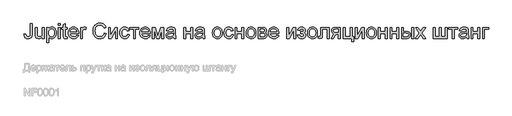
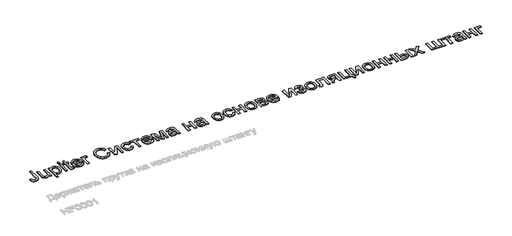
# One storey, part 43 of 124: 1 proxy.
"""IFC4 building model written with IfcOpenShell, lengths in millimetres."""

from ifc_helpers import new_model, si_unit, origin, origin_with_axes, place, context, project, spatial, polyline, outline, extrude, element, save

model = new_model("IFC4")

# Units and contexts
model_context = context("Model", 3, world=origin())
ifc_project = project(units=[si_unit("LENGTHUNIT", "METRE", prefix="MILLI")], contexts=[model_context])

# Site, building, storey
site = spatial("IfcSite", under=ifc_project)
building = spatial("IfcBuilding", under=site)
storey = spatial("IfcBuildingStorey", under=building, Name="Этаж 01", Elevation=0.0)

# Proxy
placement = place(None, origin())
element("IfcBuildingElementProxy", 1, Name="600 мм Arial", ObjectType="600 мм Arial", at=placement, inside=storey, context=model_context, shape_type="SweptSolid", body=[
    extrude(outline(polyline([(25395.1131782, -91079.6474361), (25470.4554108, -91069.9353514), (25473.1133582, -91099.8901429), (25478.2912973, -91124.7129805), (25485.989228, -91144.4038643), (25496.2071504, -91158.9627943), (25508.7887147, -91169.4566282), (25523.5775709, -91176.9522238), (25540.573719, -91181.4495812), (25559.7771592, -91182.9487003), (25587.6074321, -91179.5457919), (25611.3542149, -91169.3370665), (25629.6747383, -91153.2606233), (25641.2262329, -91132.2545614), (25647.3514681, -91101.8491145), (25649.3932132, -91057.5745164), (25649.3932132, -90646.135293), (25724.7354458, -90646.135293), (25724.7354458, -91056.2501412), (25720.1921032, -91123.333423), (25714.5129249, -91150.4601217), (25706.5620753, -91173.3101921), (25696.1418178, -91192.7941422), (25683.0544158, -91209.8224801), (25667.2998693, -91224.3952056), (25648.8781784, -91236.5123188), (25605.9647437, -91252.8462794), (25556.245492, -91258.290933), (25519.1170017, -91255.4812342), (25486.6054304, -91247.052138), (25458.7107781, -91233.0036443), (25435.4330448, -91213.3357532), (25417.1860979, -91188.1220409), (25404.3838044, -91157.436084), (25397.0261645, -91121.2778824), (25395.1131782, -91079.6474361)])), origin_with_axes(), (0.0, 0.0, 1.0), 20.0),
    extrude(outline(polyline([(26129.6999461, -91248.8731539), (26129.6999461, -91172.7951573), (26102.4398903, -91210.1995591), (26070.6916741, -91236.916989), (26034.4552976, -91252.947447), (25993.7307607, -91258.290933), (25957.0345317, -91254.5385366), (25922.8766884, -91243.2813476), (25894.218681, -91226.3587758), (25874.0219595, -91205.6102313), (25860.4287198, -91180.4103146), (25851.5811578, -91150.1336264), (25847.1665738, -91080.0888945), (25847.1665738, -90806.2375373), (25922.5088064, -90806.2375373), (25922.5088064, -91044.6250702), (25923.6492406, -91092.3025767), (25927.0705432, -91121.4388308), (25938.0518207, -91147.0618117), (25956.8689848, -91166.5411634), (25982.2712366, -91178.8468161), (26013.0077773, -91182.9487003), (26045.5101515, -91178.7548456), (26075.9155984, -91166.1732814), (26100.9867564, -91146.3628359), (26117.4862639, -91120.4823376), (26126.6465256, -91085.0369073), (26129.6999461, -91036.5316663), (26129.6999461, -90806.2375373), (26205.0421787, -90806.2375373), (26205.0421787, -91248.8731539), (26129.6999461, -91248.8731539)])), origin_with_axes(), (0.0, 0.0, 1.0), 20.0),
    extrude(outline(polyline([(26308.6377486, -91418.3931773), (26308.6377486, -90806.2375373), (26383.9799812, -90806.2375373), (26383.9799812, -90880.1082419), (26408.5544985, -90843.6695303), (26436.0720717, -90817.6418791), (26468.1513817, -90802.0252884), (26506.4111092, -90796.8197582), (26532.6870807, -90798.6407741), (26557.3627655, -90804.1038217), (26580.4381637, -90813.2089011), (26601.9132751, -90825.9560122), (26621.3190504, -90842.0140613), (26638.1864399, -90861.0519546), (26652.5154436, -90883.069692), (26664.3060615, -90908.0672736), (26680.0881991, -90963.5806666), (26685.3489116, -91024.1708312), (26679.4076174, -91088.6053627), (26671.9809996, -91118.2704471), (26661.5837348, -91146.2340772), (26648.358377, -91171.7650877), (26632.4474807, -91194.132313), (26613.8510459, -91213.3357532), (26592.5690725, -91229.3754081), (26569.6454256, -91242.0259503), (26546.1239706, -91251.0620518), (26522.0047073, -91256.4837127), (26497.2876357, -91258.290933), (26462.6515459, -91253.4532847), (26431.7310642, -91238.94034), (26405.2619546, -91217.0329672), (26383.9799812, -91190.0120347), (26383.9799812, -91418.3931773), (26308.6377486, -91418.3931773)]), holes=[polyline([(26383.9799812, -91031.0870127), (26386.0171277, -91067.3969657), (26392.1285674, -91098.6301471), (26402.3143001, -91124.7865569), (26416.574326, -91145.8661952), (26433.7406196, -91162.0897912), (26452.6451556, -91173.6780741), (26473.287934, -91180.6310438), (26495.6689549, -91182.9487003), (26518.3718726, -91180.5482703), (26539.3917301, -91173.3469803), (26558.7285274, -91161.3448302), (26576.3822647, -91144.5418201), (26591.092946, -91122.6988266), (26601.6005754, -91095.5767265), (26607.9051531, -91063.1755198), (26610.006679, -91025.4952064), (26607.9557369, -90989.4979532), (26601.8029105, -90958.3199541), (26591.5481999, -90931.9612091), (26577.1916051, -90910.4217183), (26559.9839247, -90893.6830875), (26541.1759577, -90881.7269227), (26520.767704, -90874.5532238), (26498.7591637, -90872.1619908), (26476.8196012, -90874.7049751), (26456.1768227, -90882.333928), (26436.8308283, -90895.0488494), (26418.7816179, -90912.8497395), (26403.5559019, -90935.4974748), (26392.6803904, -90962.7529321), (26386.1550835, -90994.6161114), (26383.9799812, -91031.0870127)])]), origin_with_axes(), (0.0, 0.0, 1.0), 20.0),
    extrude(outline(polyline([(26770.1089233, -90721.4775256), (26770.1089233, -90646.135293), (26845.4511559, -90646.135293), (26845.4511559, -90721.4775256), (26770.1089233, -90721.4775256)])), origin_with_axes(), (0.0, 0.0, 1.0), 20.0),
    extrude(outline(polyline([(26770.1089233, -91248.8731539), (26770.1089233, -90806.2375373), (26845.4511559, -90806.2375373), (26845.4511559, -91248.8731539), (26770.1089233, -91248.8731539)])), origin_with_axes(), (0.0, 0.0, 1.0), 20.0),
    extrude(outline(polyline([(27118.5667492, -91186.0389091), (27127.9845282, -91251.0804459), (27071.6250066, -91258.290933), (27035.4622064, -91255.163936), (27008.4964562, -91245.7829451), (26989.4401689, -91231.3251827), (26977.0057574, -91212.9678712), (26970.1631523, -91181.4403842), (26967.8822839, -91127.4720955), (26967.8822839, -90881.5797699), (26911.3756095, -90881.5797699), (26911.3756095, -90806.2375373), (26967.8822839, -90806.2375373), (26967.8822839, -90698.6688419), (27043.2245165, -90654.3758497), (27043.2245165, -90806.2375373), (27118.5667492, -90806.2375373), (27118.5667492, -90881.5797699), (27043.2245165, -90881.5797699), (27043.2245165, -91125.2648035), (27047.1976421, -91164.1131422), (27060.0735119, -91177.8719288), (27070.9444249, -91181.6795075), (27085.7516752, -91182.9487003), (27118.5667492, -91186.0389091)])), origin_with_axes(), (0.0, 0.0, 1.0), 20.0),
    extrude(outline(polyline([(27503.8127745, -91117.0242468), (27577.6834791, -91126.4420259), (27566.3573122, -91156.0289354), (27551.0672168, -91182.1025718), (27531.8131929, -91204.6629351), (27508.5952404, -91223.7100254), (27481.6524828, -91238.8391725), (27451.2240433, -91249.6457061), (27417.3099219, -91256.1296262), (27379.9101185, -91258.290933), (27333.161514, -91254.5615292), (27291.5080751, -91243.3733181), (27254.9498018, -91224.7262994), (27223.4866942, -91198.6204733), (27198.18561, -91165.7824067), (27180.113407, -91126.9386666), (27169.2700851, -91082.0892528), (27165.6556445, -91031.2341655), (27169.3068733, -90978.6546314), (27180.2605598, -90932.310697), (27198.5167038, -90892.2023625), (27224.0753054, -90858.3296278), (27255.4556396, -90831.4190599), (27291.1769813, -90812.1972256), (27331.2393306, -90800.6641251), (27375.6426874, -90796.8197582), (27418.615903, -90800.654928), (27457.4780372, -90812.1604374), (27492.2290902, -90831.3362864), (27522.8690619, -90858.182475), (27547.880439, -90891.9816333), (27565.7457084, -90932.0163914), (27576.46487, -90978.2867494), (27580.0379239, -91030.7927071), (27579.5964655, -91051.0997933), (27240.9978772, -91051.0997933), (27245.3618773, -91081.1649493), (27254.0392939, -91107.4961031), (27267.0301268, -91130.0932547), (27284.3343762, -91148.956404), (27304.9955487, -91163.8280337), (27328.0571513, -91174.4506263), (27353.5191839, -91180.8241818), (27381.3816465, -91182.9487003), (27421.480784, -91179.012363), (27455.2523511, -91167.203351), (27482.696348, -91146.7859002), (27503.8127745, -91117.0242468)]), holes=[polyline([(27240.9978772, -90975.7575607), (27504.6956913, -90975.7575607), (27494.50536, -90935.9527288), (27485.7405715, -90920.2993499), (27474.5293677, -90907.4786624), (27453.9831583, -90892.0276186), (27430.6042575, -90880.9911587), (27404.3926653, -90874.3692828), (27375.3483818, -90872.1619908), (27348.8562796, -90873.9232259), (27324.5622724, -90879.206931), (27302.46636, -90888.0131063), (27282.5685426, -90900.3417517), (27265.8712986, -90915.62265), (27253.3771063, -90933.2855843), (27245.0859658, -90953.3305545), (27240.9978772, -90975.7575607)])]), origin_with_axes(), (0.0, 0.0, 1.0), 20.0),
    extrude(outline(polyline([(27655.3801565, -91248.8731539), (27655.3801565, -90806.2375373), (27721.3046101, -90806.2375373), (27721.3046101, -90871.7205324), (27745.6583981, -90833.7551105), (27768.0991998, -90811.3878852), (27790.6135779, -90800.46179), (27815.1880952, -90796.8197582), (27852.7120587, -90802.6322937), (27890.8246334, -90820.0699003), (27865.661505, -90887.6130346), (27839.1740013, -90876.0247518), (27812.6864977, -90872.1619908), (27790.1905137, -90875.877599), (27770.0857626, -90887.0244234), (27753.8437725, -90904.7563356), (27742.9360714, -90928.2272069), (27733.7758097, -90970.3129071), (27730.7223891, -91016.2245801), (27730.7223891, -91248.8731539), (27655.3801565, -91248.8731539)])), origin_with_axes(), (0.0, 0.0, 1.0), 20.0),
    extrude(outline(polyline([(28606.5758433, -91034.6186799), (28681.9180759, -91054.0428492), (28667.009658, -91100.8972199), (28647.1532273, -91141.8378874), (28622.3487838, -91176.8648519), (28592.5963274, -91205.9781132), (28558.5672429, -91228.8649719), (28520.9329148, -91245.212728), (28479.6933431, -91255.0213817), (28434.8485279, -91258.290933), (28388.9046652, -91255.8169265), (28347.4581599, -91248.3949073), (28310.5090121, -91236.0248752), (28278.0572216, -91218.7068303), (28249.6567315, -91196.6982899), (28224.8614851, -91170.2567715), (28203.6714821, -91139.3822751), (28186.0867228, -91104.0748006), (28172.2773524, -91065.8610583), (28162.4135164, -91026.2677586), (28156.4952148, -90985.2949014), (28154.5224476, -90942.9424867), (28156.7527322, -90897.4998632), (28163.443586, -90855.055478), (28174.5950089, -90815.6093311), (28190.2070011, -90779.1614224), (28209.9300746, -90746.3141588), (28233.4147414, -90717.669947), (28260.6610017, -90693.2287869), (28291.6688554, -90672.9906786), (28325.3852402, -90657.1211691), (28360.7570941, -90645.7858051), (28397.7844169, -90638.9845867), (28436.4672087, -90636.7175139), (28479.5599859, -90639.6513728), (28519.0751107, -90648.4529496), (28555.0125831, -90663.1222441), (28587.3724031, -90683.6592565), (28615.6211418, -90709.5213608), (28639.2253703, -90740.165931), (28658.1850886, -90775.5929671), (28672.5002968, -90815.8024692), (28597.1580642, -90833.7551105), (28585.2938698, -90804.1268143), (28571.0384425, -90778.8119345), (28554.3917822, -90757.8104711), (28535.353889, -90741.1224241), (28513.8143982, -90728.4075027), (28489.6629452, -90719.3254159), (28462.89953, -90713.8761639), (28433.5241527, -90712.0597465), (28399.7249944, -90714.0739004), (28368.8137098, -90720.1163622), (28340.7902988, -90730.1871318), (28315.6547615, -90744.2862093), (28293.724396, -90761.7789982), (28275.3165007, -90782.030902), (28260.4310755, -90805.0419208), (28249.0681203, -90830.8120546), (28234.6655402, -90885.9575656), (28229.8646802, -90942.7953339), (28235.548457, -91012.3986074), (28242.653178, -91043.668577), (28252.5997875, -91072.5841018), (28265.5492337, -91098.5703662), (28281.6624651, -91121.0525547), (28300.9394817, -91140.0306671), (28323.3802834, -91155.5047035), (28347.8950198, -91167.5114521), (28373.3938406, -91176.0877011), (28399.8767457, -91181.2334505), (28427.3437352, -91182.9487003), (28460.0990283, -91180.6126497), (28490.2331623, -91173.6044977), (28517.746137, -91161.9242443), (28542.6379525, -91145.5718896), (28564.3199976, -91124.62101), (28582.2036611, -91099.1451818), (28596.288943, -91069.1444051), (28606.5758433, -91034.6186799)])), origin_with_axes(), (0.0, 0.0, 1.0), 20.0),
    extrude(outline(polyline([(28776.0958666, -90806.2375373), (28851.4380992, -90806.2375373), (28851.4380992, -91143.8060561), (29036.5563192, -90806.2375373), (29133.9714715, -90806.2375373), (29133.9714715, -91248.8731539), (29058.6292389, -91248.8731539), (29058.6292389, -90913.3647743), (28874.6882413, -91248.8731539), (28776.0958666, -91248.8731539), (28776.0958666, -90806.2375373)])), origin_with_axes(), (0.0, 0.0, 1.0), 20.0),
    extrude(outline(polyline([(29529.5181928, -91088.7709096), (29604.8604254, -91098.1886887), (29596.6658539, -91133.739885), (29583.8543634, -91165.1983941), (29566.4259539, -91192.564216), (29544.3806254, -91215.8373507), (29518.6472798, -91234.410793), (29490.1548193, -91247.6775374), (29458.9032438, -91255.6375841), (29424.8925533, -91258.290933), (29382.6367077, -91254.5891204), (29344.7494607, -91243.4836827), (29311.2308124, -91224.9746198), (29282.0807628, -91199.0619317), (29258.4857313, -91166.2330622), (29241.6321374, -91126.9754548), (29231.5199811, -91081.2891095), (29228.1492623, -91029.1740264), (29233.9066155, -90962.1275327), (29241.1033071, -90931.9566106), (29251.1786752, -90904.0205716), (29264.2016978, -90878.8804358), (29280.2413528, -90857.0972231), (29299.2976402, -90838.6709337), (29321.3705599, -90823.6015675), (29345.462232, -90811.8845259), (29370.5747767, -90803.5152105), (29396.708194, -90798.4936213), (29423.8624837, -90796.8197582), (29457.2891615, -90799.1190207), (29487.524463, -90806.0168081), (29514.5683882, -90817.5131204), (29538.420937, -90833.6079577), (29558.6774394, -90853.933438), (29574.9332251, -90878.1216791), (29587.188294, -90906.1726813), (29595.4426463, -90938.0864444), (29520.1004137, -90947.5042234), (29506.4335976, -90914.6339672), (29485.1516241, -90891.0711254), (29457.4317158, -90876.8892745), (29424.4510949, -90872.1619908), (29398.8511066, -90874.4888444), (29375.7619129, -90881.4694053), (29355.1835138, -90893.1036734), (29337.1159093, -90909.3916487), (29322.405228, -90930.7104104), (29311.8975985, -90957.4370373), (29305.5930208, -90989.5715296), (29303.4914949, -91027.1138872), (29305.5470356, -91065.2218634), (29311.7136575, -91097.7288362), (29321.9913607, -91124.6348056), (29336.3801453, -91145.9397716), (29354.0890648, -91162.1311779), (29374.3271731, -91173.6964682), (29397.0944701, -91180.6356423), (29422.3909558, -91182.9487003), (29461.4048413, -91177.172953), (29478.2768293, -91169.9532689), (29493.3921808, -91159.8457111), (29506.3278315, -91146.739915), (29516.660717, -91130.525516), (29524.3908374, -91111.2025142), (29529.5181928, -91088.7709096)])), origin_with_axes(), (0.0, 0.0, 1.0), 20.0),
    extrude(outline(polyline([(29633.1137626, -90806.2375373), (29990.9893675, -90806.2375373), (29990.9893675, -90881.5797699), (29849.7226814, -90881.5797699), (29849.7226814, -91248.8731539), (29774.3804487, -91248.8731539), (29774.3804487, -90881.5797699), (29633.1137626, -90881.5797699), (29633.1137626, -90806.2375373)])), origin_with_axes(), (0.0, 0.0, 1.0), 20.0),
    extrude(outline(polyline([(30366.8176138, -91117.0242468), (30440.6883184, -91126.4420259), (30429.3621515, -91156.0289354), (30414.0720561, -91182.1025718), (30394.8180321, -91204.6629351), (30371.6000797, -91223.7100254), (30344.6573221, -91238.8391725), (30314.2288826, -91249.6457061), (30280.3147611, -91256.1296262), (30242.9149578, -91258.290933), (30196.1663533, -91254.5615292), (30154.5129144, -91243.3733181), (30117.9546411, -91224.7262994), (30086.4915334, -91198.6204733), (30061.1904492, -91165.7824067), (30043.1182462, -91126.9386666), (30032.2749244, -91082.0892528), (30028.6604838, -91031.2341655), (30032.3117126, -90978.6546314), (30043.265399, -90932.310697), (30061.521543, -90892.2023625), (30087.0801446, -90858.3296278), (30118.4604788, -90831.4190599), (30154.1818206, -90812.1972256), (30194.2441698, -90800.6641251), (30238.6475267, -90796.8197582), (30281.6207422, -90800.654928), (30320.4828765, -90812.1604374), (30355.2339294, -90831.3362864), (30385.8739011, -90858.182475), (30410.8852783, -90891.9816333), (30428.7505477, -90932.0163914), (30439.4697093, -90978.2867494), (30443.0427632, -91030.7927071), (30442.6013048, -91051.0997933), (30104.0027164, -91051.0997933), (30108.3667166, -91081.1649493), (30117.0441331, -91107.4961031), (30130.0349661, -91130.0932547), (30147.3392155, -91148.956404), (30168.000388, -91163.8280337), (30191.0619906, -91174.4506263), (30216.5240232, -91180.8241818), (30244.3864858, -91182.9487003), (30284.4856233, -91179.012363), (30318.2571904, -91167.203351), (30345.7011872, -91146.7859002), (30366.8176138, -91117.0242468)]), holes=[polyline([(30104.0027164, -90975.7575607), (30367.7005306, -90975.7575607), (30357.5101993, -90935.9527288), (30348.7454108, -90920.2993499), (30337.534207, -90907.4786624), (30316.9879975, -90892.0276186), (30293.6090967, -90880.9911587), (30267.3975046, -90874.3692828), (30238.3532211, -90872.1619908), (30211.8611189, -90873.9232259), (30187.5671116, -90879.206931), (30165.4711993, -90888.0131063), (30145.5733819, -90900.3417517), (30128.8761378, -90915.62265), (30116.3819456, -90933.2855843), (30108.0908051, -90953.3305545), (30104.0027164, -90975.7575607)])]), origin_with_axes(), (0.0, 0.0, 1.0), 20.0),
    extrude(outline(polyline([(30518.3849958, -90806.2375373), (30648.0266109, -90806.2375373), (30747.9433608, -91160.581475), (30855.659209, -90806.2375373), (30979.8561705, -90806.2375373), (30979.8561705, -91248.8731539), (30904.5139379, -91248.8731539), (30904.5139379, -90892.469077), (30796.2094785, -91248.8731539), (30697.3227982, -91248.8731539), (30593.7272284, -90875.3993524), (30593.7272284, -91248.8731539), (30518.3849958, -91248.8731539), (30518.3849958, -90806.2375373)])), origin_with_axes(), (0.0, 0.0, 1.0), 20.0),
    extrude(outline(polyline([(31375.4028917, -91192.3664794), (31339.4056385, -91223.2317788), (31302.3415275, -91243.4285004), (31263.3644301, -91254.5753248), (31221.6282178, -91258.290933), (31188.0819783, -91256.0560498), (31158.6652143, -91249.3514005), (31133.3779256, -91238.1769849), (31112.2201124, -91222.532803), (31095.5136713, -91203.4121363), (31083.5804991, -91181.8082662), (31076.4205957, -91157.7211925), (31074.0339613, -91131.1509154), (31077.6392049, -91099.917734), (31088.4549355, -91071.5540322), (31105.138384, -91047.2738205), (31126.346781, -91028.2911096), (31151.2707862, -91013.9437118), (31179.1010591, -91003.5694395), (31244.2897487, -90992.2386741), (31321.3242385, -90980.3192974), (31374.9614334, -90966.3397816), (31375.4028917, -90949.5643626), (31370.2157556, -90915.9399483), (31363.7318355, -90903.4871427), (31354.6543472, -90893.9406049), (31338.9641801, -90884.4124613), (31319.8527105, -90877.6066444), (31271.3658635, -90872.1619908), (31226.4842601, -90875.7856285), (31195.1407141, -90886.6565414), (31173.7667702, -90906.7612925), (31158.793973, -90938.0864444), (31083.4517404, -90928.6686653), (31096.5299453, -90887.4658818), (31116.0460851, -90855.0922662), (31143.8211758, -90830.333808), (31181.6762331, -90811.9764964), (31227.9741822, -90800.6089428), (31281.0779482, -90796.8197582), (31332.0112104, -90800.1674844), (31372.3862594, -90810.2106628), (31402.8284945, -90825.3122187), (31423.9633151, -90843.8350772), (31437.9796191, -90866.7357314), (31447.0663044, -90894.9706745), (31450.7451244, -90960.8951281), (31450.7451244, -91054.6314604), (31454.5710971, -91185.5238743), (31460.2364798, -91217.8790958), (31469.5806825, -91248.8731539), (31394.2384499, -91248.8731539), (31382.1719205, -91222.6799558), (31375.4028917, -91192.3664794)]), holes=[polyline([(31375.4028917, -91041.6820142), (31324.7823292, -91054.2267902), (31253.8546805, -91064.7850035), (31189.033873, -91076.9986857), (31172.1664835, -91085.349607), (31159.6768898, -91096.8643135), (31151.9513679, -91110.6598883), (31149.3761939, -91125.8534147), (31154.9863943, -91148.2574282), (31171.8169956, -91166.6147398), (31199.5001158, -91178.8652102), (31237.6678728, -91182.9487003), (31278.1348922, -91178.4421459), (31313.8930222, -91164.9224826), (31342.8821234, -91145.0016725), (31363.0420567, -91121.291678), (31371.9815892, -91096.8643135), (31374.9614334, -91063.0191699), (31375.4028917, -91041.6820142)])]), origin_with_axes(), (0.0, 0.0, 1.0), 20.0),
    extrude(outline(polyline([(31789.7851711, -90806.2375373), (31865.1274037, -90806.2375373), (31865.1274037, -90975.7575607), (32062.9007643, -90975.7575607), (32062.9007643, -90806.2375373), (32138.2429969, -90806.2375373), (32138.2429969, -91248.8731539), (32062.9007643, -91248.8731539), (32062.9007643, -91051.0997933), (31865.1274037, -91051.0997933), (31865.1274037, -91248.8731539), (31789.7851711, -91248.8731539), (31789.7851711, -90806.2375373)])), origin_with_axes(), (0.0, 0.0, 1.0), 20.0),
    extrude(outline(polyline([(32533.7897182, -91192.3664794), (32497.7924649, -91223.2317788), (32460.7283539, -91243.4285004), (32421.7512565, -91254.5753248), (32380.0150442, -91258.290933), (32346.4688047, -91256.0560498), (32317.0520407, -91249.3514005), (32291.7647521, -91238.1769849), (32270.6069388, -91222.532803), (32253.9004977, -91203.4121363), (32241.9673255, -91181.8082662), (32234.8074222, -91157.7211925), (32232.4207877, -91131.1509154), (32236.0260313, -91099.917734), (32246.8417619, -91071.5540322), (32263.5252104, -91047.2738205), (32284.7336074, -91028.2911096), (32309.6576126, -91013.9437118), (32337.4878855, -91003.5694395), (32402.6765751, -90992.2386741), (32479.7110649, -90980.3192974), (32533.3482598, -90966.3397816), (32533.7897182, -90949.5643626), (32528.602582, -90915.9399483), (32522.1186619, -90903.4871427), (32513.0411736, -90893.9406049), (32497.3510065, -90884.4124613), (32478.2395369, -90877.6066444), (32429.7526899, -90872.1619908), (32384.8710865, -90875.7856285), (32353.5275405, -90886.6565414), (32332.1535966, -90906.7612925), (32317.1807994, -90938.0864444), (32241.8385668, -90928.6686653), (32254.9167717, -90887.4658818), (32274.4329116, -90855.0922662), (32302.2080022, -90830.333808), (32340.0630595, -90811.9764964), (32386.3610086, -90800.6089428), (32439.4647746, -90796.8197582), (32490.3980368, -90800.1674844), (32530.7730858, -90810.2106628), (32561.2153209, -90825.3122187), (32582.3501415, -90843.8350772), (32596.3664455, -90866.7357314), (32605.4531308, -90894.9706745), (32609.1319508, -90960.8951281), (32609.1319508, -91054.6314604), (32612.9579235, -91185.5238743), (32618.6233062, -91217.8790958), (32627.9675089, -91248.8731539), (32552.6252763, -91248.8731539), (32540.5587469, -91222.6799558), (32533.7897182, -91192.3664794)]), holes=[polyline([(32533.7897182, -91041.6820142), (32483.1691556, -91054.2267902), (32412.241507, -91064.7850035), (32347.4206994, -91076.9986857), (32330.5533099, -91085.349607), (32318.0637162, -91096.8643135), (32310.3381943, -91110.6598883), (32307.7630203, -91125.8534147), (32313.3732208, -91148.2574282), (32330.203822, -91166.6147398), (32357.8869422, -91178.8652102), (32396.0546992, -91182.9487003), (32436.5217186, -91178.4421459), (32472.2798486, -91164.9224826), (32501.2689498, -91145.0016725), (32521.4288831, -91121.291678), (32530.3684156, -91096.8643135), (32533.3482598, -91063.0191699), (32533.7897182, -91041.6820142)])]), origin_with_axes(), (0.0, 0.0, 1.0), 20.0),
    extrude(outline(polyline([(32929.3364394, -91027.5553456), (32933.4107325, -90970.2301337), (32945.6336118, -90920.8327788), (32966.0050772, -90879.3632809), (32994.5251289, -90845.82164), (33023.2383186, -90824.3833167), (33054.9313525, -90809.0702287), (33089.6042306, -90799.8823758), (33127.2569528, -90796.8197582), (33168.8230197, -90800.5491619), (33206.406764, -90811.7373731), (33240.0081858, -90830.3843917), (33269.6272849, -90856.4902178), (33293.8017305, -90889.1719346), (33311.0691917, -90927.5466252), (33321.4296684, -90971.6142897), (33324.8831606, -91021.3749281), (33323.3564503, -91061.7039918), (33318.7763195, -91097.4897129), (33311.1427681, -91128.7320913), (33300.4557961, -91155.4311271), (33286.8487608, -91178.4927297), (33270.4550194, -91198.8228084), (33251.2745719, -91216.4213634), (33229.3074182, -91231.2883945), (33205.4088841, -91243.1020051), (33180.4342952, -91251.5402984), (33154.3836514, -91256.6032743), (33127.2569528, -91258.290933), (33085.0838806, -91254.5753248), (33047.1506483, -91243.4285004), (33013.4572561, -91224.8504596), (32984.0037039, -91198.8412025), (32960.0867756, -91165.8421876), (32943.0032555, -91126.2948731), (32932.7531434, -91080.1992591), (32929.3364394, -91027.5553456)]), holes=[polyline([(33004.678672, -91027.4081928), (33006.8583728, -91063.9526705), (33013.3974753, -91095.5951206), (33024.2959794, -91122.3355431), (33039.5538851, -91144.1739381), (33058.1135318, -91161.1378966), (33078.9172586, -91173.2550098), (33101.9650656, -91180.5252777), (33127.2569528, -91182.9487003), (33152.4200813, -91180.5114821), (33175.3759178, -91173.1998275), (33196.1244623, -91161.0137364), (33214.6657148, -91143.9532089), (33229.9236206, -91121.8986833), (33240.8221247, -91094.7305979), (33247.3612272, -91062.4489528), (33249.540928, -91025.053748), (33247.3474316, -90989.6680986), (33240.7669424, -90958.853383), (33229.7994604, -90932.6096012), (33214.4449856, -90910.9367531), (33195.8347552, -90893.9727946), (33175.1000063, -90881.8556814), (33152.2407388, -90874.5854135), (33127.2569528, -90872.1619908), (33101.9650656, -90874.5762164), (33078.9172586, -90881.8188932), (33058.1135318, -90893.8900212), (33039.5538851, -90910.7896003), (33024.2959794, -90932.5636159), (33013.3974753, -90959.2580532), (33006.8583728, -90990.8729121), (33004.678672, -91027.4081928)])]), origin_with_axes(), (0.0, 0.0, 1.0), 20.0),
    extrude(outline(polyline([(33692.1765446, -91088.7709096), (33767.5187772, -91098.1886887), (33759.3242057, -91133.739885), (33746.5127153, -91165.1983941), (33729.0843057, -91192.564216), (33707.0389772, -91215.8373507), (33681.3056316, -91234.410793), (33652.8131711, -91247.6775374), (33621.5615956, -91255.6375841), (33587.5509051, -91258.290933), (33545.2950595, -91254.5891204), (33507.4078125, -91243.4836827), (33473.8891642, -91224.9746198), (33444.7391146, -91199.0619317), (33421.1440832, -91166.2330622), (33404.2904892, -91126.9754548), (33394.1783329, -91081.2891095), (33390.8076141, -91029.1740264), (33396.5649674, -90962.1275327), (33403.7616589, -90931.9566106), (33413.837027, -90904.0205716), (33426.8600497, -90878.8804358), (33442.8997046, -90857.0972231), (33461.955992, -90838.6709337), (33484.0289117, -90823.6015675), (33508.1205839, -90811.8845259), (33533.2331286, -90803.5152105), (33559.3665458, -90798.4936213), (33586.5208356, -90796.8197582), (33619.9475133, -90799.1190207), (33650.1828148, -90806.0168081), (33677.22674, -90817.5131204), (33701.0792889, -90833.6079577), (33721.3357912, -90853.933438), (33737.5915769, -90878.1216791), (33749.8466458, -90906.1726813), (33758.1009981, -90938.0864444), (33682.7587655, -90947.5042234), (33669.0919494, -90914.6339672), (33647.809976, -90891.0711254), (33620.0900676, -90876.8892745), (33587.1094468, -90872.1619908), (33561.5094584, -90874.4888444), (33538.4202647, -90881.4694053), (33517.8418656, -90893.1036734), (33499.7742611, -90909.3916487), (33485.0635798, -90930.7104104), (33474.5559503, -90957.4370373), (33468.2513726, -90989.5715296), (33466.1498467, -91027.1138872), (33468.2053874, -91065.2218634), (33474.3720093, -91097.7288362), (33484.6497126, -91124.6348056), (33499.0384971, -91145.9397716), (33516.7474166, -91162.1311779), (33536.9855249, -91173.6964682), (33559.7528219, -91180.6356423), (33585.0493076, -91182.9487003), (33624.0631932, -91177.172953), (33640.9351812, -91169.9532689), (33656.0505326, -91159.8457111), (33668.9861833, -91146.739915), (33679.3190688, -91130.525516), (33687.0491893, -91111.2025142), (33692.1765446, -91088.7709096)])), origin_with_axes(), (0.0, 0.0, 1.0), 20.0),
    extrude(outline(polyline([(33833.4432307, -90806.2375373), (33908.7854633, -90806.2375373), (33908.7854633, -90975.7575607), (34106.5588239, -90975.7575607), (34106.5588239, -90806.2375373), (34181.9010566, -90806.2375373), (34181.9010566, -91248.8731539), (34106.5588239, -91248.8731539), (34106.5588239, -91051.0997933), (33908.7854633, -91051.0997933), (33908.7854633, -91248.8731539), (33833.4432307, -91248.8731539), (33833.4432307, -90806.2375373)])), origin_with_axes(), (0.0, 0.0, 1.0), 20.0),
    extrude(outline(polyline([(34276.0788473, -91027.5553456), (34280.1531404, -90970.2301337), (34292.3760197, -90920.8327788), (34312.7474852, -90879.3632809), (34341.2675369, -90845.82164), (34369.9807266, -90824.3833167), (34401.6737605, -90809.0702287), (34436.3466385, -90799.8823758), (34473.9993607, -90796.8197582), (34515.5654277, -90800.5491619), (34553.149172, -90811.7373731), (34586.7505937, -90830.3843917), (34616.3696929, -90856.4902178), (34640.5441385, -90889.1719346), (34657.8115996, -90927.5466252), (34668.1720763, -90971.6142897), (34671.6255685, -91021.3749281), (34670.0988583, -91061.7039918), (34665.5187274, -91097.4897129), (34657.885176, -91128.7320913), (34647.1982041, -91155.4311271), (34633.5911688, -91178.4927297), (34617.1974273, -91198.8228084), (34598.0169798, -91216.4213634), (34576.0498262, -91231.2883945), (34552.1512921, -91243.1020051), (34527.1767031, -91251.5402984), (34501.1260593, -91256.6032743), (34473.9993607, -91258.290933), (34431.8262885, -91254.5753248), (34393.8930563, -91243.4285004), (34360.199664, -91224.8504596), (34330.7461118, -91198.8412025), (34306.8291836, -91165.8421876), (34289.7456634, -91126.2948731), (34279.4955513, -91080.1992591), (34276.0788473, -91027.5553456)]), holes=[polyline([(34351.4210799, -91027.4081928), (34353.6007808, -91063.9526705), (34360.1398832, -91095.5951206), (34371.0383873, -91122.3355431), (34386.2962931, -91144.1739381), (34404.8559397, -91161.1378966), (34425.6596666, -91173.2550098), (34448.7074736, -91180.5252777), (34473.9993607, -91182.9487003), (34499.1624892, -91180.5114821), (34522.1183257, -91173.1998275), (34542.8668702, -91161.0137364), (34561.4081228, -91143.9532089), (34576.6660285, -91121.8986833), (34587.5645326, -91094.7305979), (34594.1036351, -91062.4489528), (34596.2833359, -91025.053748), (34594.0898395, -90989.6680986), (34587.5093503, -90958.853383), (34576.5418684, -90932.6096012), (34561.1873936, -90910.9367531), (34542.5771632, -90893.9727946), (34521.8424142, -90881.8556814), (34498.9831467, -90874.5854135), (34473.9993607, -90872.1619908), (34448.7074736, -90874.5762164), (34425.6596666, -90881.8188932), (34404.8559397, -90893.8900212), (34386.2962931, -90910.7896003), (34371.0383873, -90932.5636159), (34360.1398832, -90959.2580532), (34353.6007808, -90990.8729121), (34351.4210799, -91027.4081928)])]), origin_with_axes(), (0.0, 0.0, 1.0), 20.0),
    extrude(outline(polyline([(34756.3855802, -90806.2375373), (34922.3739364, -90806.2375373), (34975.7352198, -90808.757529), (35013.3879421, -90816.317504), (35041.0894563, -90830.5913254), (35064.5971158, -90853.2528563), (35080.6551649, -90882.7753864), (35086.0078479, -90917.6322054), (35082.7704863, -90945.7199958), (35073.0584017, -90969.9450251), (35056.8348057, -90990.4176582), (35034.0629102, -91007.2482595), (35061.9483654, -91022.9016383), (35084.6834727, -91048.0831609), (35099.8034227, -91080.8062644), (35104.8434061, -91119.084386), (35100.6587484, -91149.9220942), (35092.0779008, -91176.5107654), (35079.1008634, -91198.8503996), (35061.7276362, -91216.9409967), (35039.930628, -91230.9113155), (35013.6822476, -91240.8901146), (34982.9824952, -91246.8773941), (34947.8313705, -91248.8731539), (34756.3855802, -91248.8731539), (34756.3855802, -90806.2375373)]), holes=[polyline([(34831.7278128, -90975.7575607), (34906.1871287, -90975.7575607), (34967.6234219, -90971.9315879), (34983.4423476, -90966.1926288), (34997.4954399, -90956.6276969), (35007.3730714, -90943.9725563), (35010.6656153, -90928.9629709), (35009.2216785, -90916.7216975), (35004.889868, -90906.485381), (34997.6701838, -90898.2540213), (34987.562626, -90892.0276186), (34956.2558682, -90884.1917321), (34908.5415734, -90881.5797699), (34831.7278128, -90881.5797699), (34831.7278128, -90975.7575607)]), polyline([(34831.7278128, -91173.5309213), (34924.13977, -91173.5309213), (34974.5028152, -91170.1280128), (35006.1038785, -91159.9192875), (35015.8987367, -91151.8764673), (35023.0632385, -91141.3596408), (35029.5011734, -91112.9039685), (35026.282206, -91094.0500162), (35016.6253036, -91076.6308037), (35001.7996592, -91063.0007758), (34983.0744657, -91055.5143772), (34916.7821301, -91051.0997933), (34831.7278128, -91051.0997933), (34831.7278128, -91173.5309213)])]), origin_with_axes(), (0.0, 0.0, 1.0), 20.0),
    extrude(outline(polyline([(35508.9249896, -91117.0242468), (35582.7956942, -91126.4420259), (35571.4695273, -91156.0289354), (35556.1794318, -91182.1025718), (35536.9254079, -91204.6629351), (35513.7074555, -91223.7100254), (35486.7646979, -91238.8391725), (35456.3362583, -91249.6457061), (35422.4221369, -91256.1296262), (35385.0223336, -91258.290933), (35338.273729, -91254.5615292), (35296.6202901, -91243.3733181), (35260.0620169, -91224.7262994), (35228.5989092, -91198.6204733), (35203.297825, -91165.7824067), (35185.225622, -91126.9386666), (35174.3823002, -91082.0892528), (35170.7678596, -91031.2341655), (35174.4190884, -90978.6546314), (35185.3727748, -90932.310697), (35203.6289188, -90892.2023625), (35229.1875204, -90858.3296278), (35260.5678546, -90831.4190599), (35296.2891963, -90812.1972256), (35336.3515456, -90800.6641251), (35380.7549024, -90796.8197582), (35423.728118, -90800.654928), (35462.5902523, -90812.1604374), (35497.3413052, -90831.3362864), (35527.9812769, -90858.182475), (35552.9926541, -90891.9816333), (35570.8579234, -90932.0163914), (35581.5770851, -90978.2867494), (35585.150139, -91030.7927071), (35584.7086806, -91051.0997933), (35246.1100922, -91051.0997933), (35250.4740924, -91081.1649493), (35259.1515089, -91107.4961031), (35272.1423419, -91130.0932547), (35289.4465912, -91148.956404), (35310.1077638, -91163.8280337), (35333.1693664, -91174.4506263), (35358.631399, -91180.8241818), (35386.4938616, -91182.9487003), (35426.592999, -91179.012363), (35460.3645662, -91167.203351), (35487.808563, -91146.7859002), (35508.9249896, -91117.0242468)]), holes=[polyline([(35246.1100922, -90975.7575607), (35509.8079063, -90975.7575607), (35499.6175751, -90935.9527288), (35490.8527865, -90920.2993499), (35479.6415827, -90907.4786624), (35459.0953733, -90892.0276186), (35435.7164725, -90880.9911587), (35409.5048804, -90874.3692828), (35380.4605968, -90872.1619908), (35353.9684947, -90873.9232259), (35329.6744874, -90879.206931), (35307.5785751, -90888.0131063), (35287.6807577, -90900.3417517), (35270.9835136, -90915.62265), (35258.4893213, -90933.2855843), (35250.1981809, -90953.3305545), (35246.1100922, -90975.7575607)])]), origin_with_axes(), (0.0, 0.0, 1.0), 20.0),
    extrude(outline(polyline([(35895.9368485, -90806.2375373), (35971.2790811, -90806.2375373), (35971.2790811, -91143.8060561), (36156.3973011, -90806.2375373), (36253.8124534, -90806.2375373), (36253.8124534, -91248.8731539), (36178.4702208, -91248.8731539), (36178.4702208, -90913.3647743), (35994.5292232, -91248.8731539), (35895.9368485, -91248.8731539), (35895.9368485, -90806.2375373)])), origin_with_axes(), (0.0, 0.0, 1.0), 20.0),
    extrude(outline(polyline([(36470.4213721, -91051.0997933), (36470.4213721, -90975.7575607), (36529.8711026, -90972.8145047), (36545.3221464, -90967.5721863), (36559.8902734, -90957.1427317), (36570.4852748, -90942.445846), (36574.016942, -90924.4012341), (36569.2896584, -90902.9721079), (36555.1078074, -90886.3622358), (36533.457952, -90875.7120521), (36506.3266549, -90872.1619908), (36478.9010521, -90875.693658), (36455.9268215, -90886.2886594), (36437.4039631, -90903.9469952), (36423.3324768, -90928.6686653), (36338.5724651, -90919.2508862), (36348.3489291, -90890.5560906), (36361.050055, -90865.6872677), (36376.6758427, -90844.6444176), (36395.2262923, -90827.4275402), (36416.7014038, -90814.0366356), (36441.1011771, -90804.4717037), (36468.4256123, -90798.7327446), (36498.6747094, -90796.8197582), (36532.0783945, -90799.1512104), (36561.656107, -90806.1455668), (36587.4078466, -90817.8028275), (36609.3336135, -90834.1229925), (36626.8447965, -90853.6805191), (36639.3527843, -90875.0498645), (36646.857577, -90898.2310287), (36649.3591746, -90923.2240118), (36645.7999163, -90947.9456818), (36635.1221414, -90970.0186015), (36617.3258499, -90989.4427709), (36592.4110418, -91006.2181899), (36621.4921135, -91027.1506754), (36642.2222639, -91053.1599325), (36654.6382812, -91084.3195374), (36658.7769537, -91120.7030668), (36656.1511959, -91149.8715105), (36648.2739227, -91176.1612775), (36635.145134, -91199.572368), (36616.7648298, -91220.1047819), (36593.6664391, -91236.811223), (36566.3833906, -91248.7443952), (36534.9156844, -91255.9042985), (36499.2633206, -91258.290933), (36464.5122676, -91256.083641), (36433.6147785, -91249.4617651), (36406.5708534, -91238.4253052), (36383.3804921, -91222.9742614), (36364.0436947, -91203.1086337), (36348.5604612, -91178.828422), (36336.9307917, -91150.1336264), (36329.154686, -91117.0242468), (36413.9146977, -91107.6064677), (36426.6066265, -91139.4650485), (36447.906994, -91163.2302254), (36475.3509909, -91178.0190816), (36506.4738077, -91182.9487003), (36536.7872841, -91178.2214167), (36561.5089542, -91164.0395658), (36577.9532793, -91142.500075), (36583.4347211, -91115.6998716), (36580.0318126, -91094.4730805), (36569.8230872, -91076.115769), (36555.769995, -91062.3569823), (36540.833986, -91054.925766), (36485.136652, -91050.6583349), (36470.4213721, -91051.0997933)])), origin_with_axes(), (0.0, 0.0, 1.0), 20.0),
    extrude(outline(polyline([(36734.1191863, -91027.5553456), (36738.1934794, -90970.2301337), (36750.4163587, -90920.8327788), (36770.7878242, -90879.3632809), (36799.3078758, -90845.82164), (36828.0210656, -90824.3833167), (36859.7140994, -90809.0702287), (36894.3869775, -90799.8823758), (36932.0396997, -90796.8197582), (36973.6057666, -90800.5491619), (37011.189511, -90811.7373731), (37044.7909327, -90830.3843917), (37074.4100318, -90856.4902178), (37098.5844774, -90889.1719346), (37115.8519386, -90927.5466252), (37126.2124153, -90971.6142897), (37129.6659075, -91021.3749281), (37128.1391972, -91061.7039918), (37123.5590664, -91097.4897129), (37115.925515, -91128.7320913), (37105.238543, -91155.4311271), (37091.6315077, -91178.4927297), (37075.2377663, -91198.8228084), (37056.0573188, -91216.4213634), (37034.0901652, -91231.2883945), (37010.191631, -91243.1020051), (36985.2170421, -91251.5402984), (36959.1663983, -91256.6032743), (36932.0396997, -91258.290933), (36889.8666275, -91254.5753248), (36851.9333952, -91243.4285004), (36818.240003, -91224.8504596), (36788.7864508, -91198.8412025), (36764.8695226, -91165.8421876), (36747.7860024, -91126.2948731), (36737.5358903, -91080.1992591), (36734.1191863, -91027.5553456)]), holes=[polyline([(36809.4614189, -91027.4081928), (36811.6411197, -91063.9526705), (36818.1802222, -91095.5951206), (36829.0787263, -91122.3355431), (36844.336632, -91144.1739381), (36862.8962787, -91161.1378966), (36883.7000055, -91173.2550098), (36906.7478125, -91180.5252777), (36932.0396997, -91182.9487003), (36957.2028282, -91180.5114821), (36980.1586647, -91173.1998275), (37000.9072092, -91161.0137364), (37019.4484618, -91143.9532089), (37034.7063675, -91121.8986833), (37045.6048716, -91094.7305979), (37052.1439741, -91062.4489528), (37054.3236749, -91025.053748), (37052.1301785, -90989.6680986), (37045.5496893, -90958.853383), (37034.5822073, -90932.6096012), (37019.2277326, -90910.9367531), (37000.6175021, -90893.9727946), (36979.8827532, -90881.8556814), (36957.0234857, -90874.5854135), (36932.0396997, -90872.1619908), (36906.7478125, -90874.5762164), (36883.7000055, -90881.8188932), (36862.8962787, -90893.8900212), (36844.336632, -90910.7896003), (36829.0787263, -90932.5636159), (36818.1802222, -90959.2580532), (36811.6411197, -90990.8729121), (36809.4614189, -91027.4081928)])]), origin_with_axes(), (0.0, 0.0, 1.0), 20.0),
    extrude(outline(polyline([(37252.0970355, -90806.2375373), (37591.1370823, -90806.2375373), (37591.1370823, -91248.4316955), (37515.7948496, -91248.4316955), (37515.7948496, -90881.5797699), (37327.4392681, -90881.5797699), (37327.4392681, -91092.7440351), (37326.1700752, -91154.0331755), (37322.3624966, -91190.1591875), (37312.852747, -91212.2137131), (37294.4770413, -91231.2883945), (37266.5915861, -91244.476964), (37228.5525878, -91248.8731539), (37167.3370238, -91245.0471811), (37167.3370238, -91173.5309213), (37201.0350146, -91173.5309213), (37221.4708594, -91172.372093), (37235.1008873, -91168.8956081), (37243.6173555, -91162.8991316), (37248.7125211, -91154.1803283), (37252.0970355, -91088.476604), (37252.0970355, -90806.2375373)])), origin_with_axes(), (0.0, 0.0, 1.0), 20.0),
    extrude(outline(polyline([(38043.1904779, -90806.2375373), (38043.1904779, -91248.8731539), (37967.8482453, -91248.8731539), (37967.8482453, -91079.3531305), (37926.7926147, -91079.3531305), (37894.0511171, -91081.7443635), (37870.8745514, -91088.9180624), (37848.5441143, -91109.7769715), (37818.3410025, -91153.2238351), (37758.3026609, -91248.8731539), (37671.1882044, -91248.8731539), (37746.8247426, -91127.9135539), (37780.2284278, -91084.5034784), (37795.936989, -91071.8483378), (37810.9833626, -91065.2264619), (37783.3186365, -91059.1104237), (37759.4798832, -91049.4443243), (37739.4671027, -91036.2281636), (37723.2802949, -91019.4619417), (37710.7907012, -91000.2217133), (37701.8695628, -90979.5835334), (37696.5168798, -90957.5474019), (37694.7326521, -90934.1133188), (37697.1698703, -90906.9820217), (37704.481525, -90882.5362631), (37716.6676161, -90860.7760431), (37733.7281436, -90841.7013616), (37755.4055902, -90826.1859385), (37781.4424384, -90815.1034934), (37811.8386882, -90808.4540263), (37846.5943397, -90806.2375373), (38043.1904779, -90806.2375373)]), holes=[polyline([(37967.8482453, -90881.5797699), (37868.5201066, -90881.5797699), (37817.2189624, -90885.9391715), (37799.8871219, -90891.3884236), (37788.1011025, -90899.0173765), (37774.5814392, -90917.9449051), (37770.0748847, -90939.8522779), (37771.7349522, -90955.3079203), (37776.7151547, -90968.5654677), (37785.0154922, -90979.6249201), (37796.6359648, -90988.4862777), (37812.4778832, -90995.278299), (37833.4425584, -91000.1297428), (37890.7401791, -91004.0108979), (37967.8482453, -91004.0108979), (37967.8482453, -90881.5797699)])]), origin_with_axes(), (0.0, 0.0, 1.0), 20.0),
    extrude(outline(polyline([(38156.2038268, -90806.2375373), (38231.5460595, -90806.2375373), (38231.5460595, -91173.5309213), (38448.1549782, -91173.5309213), (38448.1549782, -90806.2375373), (38523.4972108, -90806.2375373), (38523.4972108, -91173.5309213), (38570.5861062, -91173.5309213), (38570.5861062, -91371.3042819), (38495.2438736, -91371.3042819), (38495.2438736, -91248.8731539), (38156.2038268, -91248.8731539), (38156.2038268, -90806.2375373)])), origin_with_axes(), (0.0, 0.0, 1.0), 20.0),
    extrude(outline(polyline([(38636.5105598, -90806.2375373), (38711.8527924, -90806.2375373), (38711.8527924, -91143.8060561), (38896.9710123, -90806.2375373), (38994.3861647, -90806.2375373), (38994.3861647, -91248.8731539), (38919.043932, -91248.8731539), (38919.043932, -90913.3647743), (38735.1029345, -91248.8731539), (38636.5105598, -91248.8731539), (38636.5105598, -90806.2375373)])), origin_with_axes(), (0.0, 0.0, 1.0), 20.0),
    extrude(outline(polyline([(39088.5639554, -91027.5553456), (39092.6382485, -90970.2301337), (39104.8611278, -90920.8327788), (39125.2325933, -90879.3632809), (39153.752645, -90845.82164), (39182.4658347, -90824.3833167), (39214.1588686, -90809.0702287), (39248.8317466, -90799.8823758), (39286.4844688, -90796.8197582), (39328.0505358, -90800.5491619), (39365.6342801, -90811.7373731), (39399.2357018, -90830.3843917), (39428.854801, -90856.4902178), (39453.0292466, -90889.1719346), (39470.2967077, -90927.5466252), (39480.6571844, -90971.6142897), (39484.1106766, -91021.3749281), (39482.5839664, -91061.7039918), (39478.0038355, -91097.4897129), (39470.3702841, -91128.7320913), (39459.6833122, -91155.4311271), (39446.0762769, -91178.4927297), (39429.6825355, -91198.8228084), (39410.5020879, -91216.4213634), (39388.5349343, -91231.2883945), (39364.6364002, -91243.1020051), (39339.6618112, -91251.5402984), (39313.6111674, -91256.6032743), (39286.4844688, -91258.290933), (39244.3113966, -91254.5753248), (39206.3781644, -91243.4285004), (39172.6847721, -91224.8504596), (39143.2312199, -91198.8412025), (39119.3142917, -91165.8421876), (39102.2307715, -91126.2948731), (39091.9806595, -91080.1992591), (39088.5639554, -91027.5553456)]), holes=[polyline([(39163.906188, -91027.4081928), (39166.0858889, -91063.9526705), (39172.6249913, -91095.5951206), (39183.5234954, -91122.3355431), (39198.7814012, -91144.1739381), (39217.3410478, -91161.1378966), (39238.1447747, -91173.2550098), (39261.1925817, -91180.5252777), (39286.4844688, -91182.9487003), (39311.6475973, -91180.5114821), (39334.6034338, -91173.1998275), (39355.3519783, -91161.0137364), (39373.8932309, -91143.9532089), (39389.1511366, -91121.8986833), (39400.0496407, -91094.7305979), (39406.5887432, -91062.4489528), (39408.768444, -91025.053748), (39406.5749476, -90989.6680986), (39399.9944584, -90958.853383), (39389.0269765, -90932.6096012), (39373.6725017, -90910.9367531), (39355.0622713, -90893.9727946), (39334.3275223, -90881.8556814), (39311.4682548, -90874.5854135), (39286.4844688, -90872.1619908), (39261.1925817, -90874.5762164), (39238.1447747, -90881.8188932), (39217.3410478, -90893.8900212), (39198.7814012, -90910.7896003), (39183.5234954, -90932.5636159), (39172.6249913, -90959.2580532), (39166.0858889, -90990.8729121), (39163.906188, -91027.4081928)])]), origin_with_axes(), (0.0, 0.0, 1.0), 20.0),
    extrude(outline(polyline([(39568.8706883, -90806.2375373), (39644.2129209, -90806.2375373), (39644.2129209, -90975.7575607), (39841.9862815, -90975.7575607), (39841.9862815, -90806.2375373), (39917.3285142, -90806.2375373), (39917.3285142, -91248.8731539), (39841.9862815, -91248.8731539), (39841.9862815, -91051.0997933), (39644.2129209, -91051.0997933), (39644.2129209, -91248.8731539), (39568.8706883, -91248.8731539), (39568.8706883, -90806.2375373)])), origin_with_axes(), (0.0, 0.0, 1.0), 20.0),
    extrude(outline(polyline([(40030.3418631, -90806.2375373), (40105.6840957, -90806.2375373), (40105.6840957, -90975.7575607), (40303.4574563, -90975.7575607), (40303.4574563, -90806.2375373), (40378.7996889, -90806.2375373), (40378.7996889, -91248.8731539), (40303.4574563, -91248.8731539), (40303.4574563, -91051.0997933), (40105.6840957, -91051.0997933), (40105.6840957, -91248.8731539), (40030.3418631, -91248.8731539), (40030.3418631, -90806.2375373)])), origin_with_axes(), (0.0, 0.0, 1.0), 20.0),
    extrude(outline(polyline([(40906.1953172, -90806.2375373), (40981.5375498, -90806.2375373), (40981.5375498, -91248.8731539), (40906.1953172, -91248.8731539), (40906.1953172, -90806.2375373)])), origin_with_axes(), (0.0, 0.0, 1.0), 20.0),
    extrude(outline(polyline([(40491.8130378, -90806.2375373), (40567.1552704, -90806.2375373), (40567.1552704, -90966.3397816), (40660.3029916, -90966.3397816), (40703.1658426, -90968.6988249), (40740.8139663, -90975.7759548), (40773.2473627, -90987.5711712), (40800.4660318, -91004.0844743), (40822.0009241, -91024.7456468), (40837.38299, -91048.9844718), (40846.6122295, -91076.8009492), (40849.6886427, -91108.1950789), (40847.1088702, -91136.2046943), (40839.3695528, -91162.1081853), (40826.4706903, -91185.9055519), (40808.4122829, -91207.596794), (40784.6884927, -91225.6552015), (40754.7934821, -91238.5540639), (40718.727251, -91246.2933814), (40676.4897994, -91248.8731539), (40491.8130378, -91248.8731539), (40491.8130378, -90806.2375373)]), holes=[polyline([(40567.1552704, -91173.5309213), (40644.5576422, -91173.5309213), (40704.5591956, -91169.5761898), (40727.0275885, -91164.6327755), (40744.4743921, -91157.7119955), (40757.5434, -91148.6942881), (40766.8784056, -91137.4600916), (40772.479409, -91124.0094062), (40774.3464101, -91108.3422317), (40768.8097861, -91083.7309263), (40752.199914, -91061.9891003), (40737.7835383, -91053.1047502), (40716.6809074, -91046.7587857), (40654.4168797, -91041.6820142), (40567.1552704, -91041.6820142), (40567.1552704, -91173.5309213)])]), origin_with_axes(), (0.0, 0.0, 1.0), 20.0),
    extrude(outline(polyline([(41047.4620033, -91248.8731539), (41208.4471644, -91026.3781232), (41056.8797824, -90806.2375373), (41147.525906, -90806.2375373), (41220.6608467, -90912.1875519), (41254.8002958, -90962.2195032), (41284.3780082, -90921.3110254), (41367.6664919, -90806.2375373), (41458.3126156, -90806.2375373), (41299.093288, -91026.3781232), (41452.4265036, -91248.8731539), (41361.78038, -91248.8731539), (41269.5155756, -91115.1112604), (41252.5930039, -91090.683896), (41138.108127, -91248.8731539), (41047.4620033, -91248.8731539)])), origin_with_axes(), (0.0, 0.0, 1.0), 20.0),
    extrude(outline(polyline([(41753.7954341, -90806.2375373), (41829.1376667, -90806.2375373), (41829.1376667, -91173.5309213), (41998.6576901, -91173.5309213), (41998.6576901, -90806.2375373), (42073.9999227, -90806.2375373), (42073.9999227, -91173.5309213), (42243.5199461, -91173.5309213), (42243.5199461, -90806.2375373), (42318.8621787, -90806.2375373), (42318.8621787, -91248.8731539), (41753.7954341, -91248.8731539), (41753.7954341, -90806.2375373)])), origin_with_axes(), (0.0, 0.0, 1.0), 20.0),
    extrude(outline(polyline([(42384.7866322, -90806.2375373), (42742.6622371, -90806.2375373), (42742.6622371, -90881.5797699), (42601.395551, -90881.5797699), (42601.395551, -91248.8731539), (42526.0533184, -91248.8731539), (42526.0533184, -90881.5797699), (42384.7866322, -90881.5797699), (42384.7866322, -90806.2375373)])), origin_with_axes(), (0.0, 0.0, 1.0), 20.0),
    extrude(outline(polyline([(43091.1200629, -91192.3664794), (43055.1228097, -91223.2317788), (43018.0586987, -91243.4285004), (42979.0816013, -91254.5753248), (42937.345389, -91258.290933), (42903.7991495, -91256.0560498), (42874.3823855, -91249.3514005), (42849.0950968, -91238.1769849), (42827.9372836, -91222.532803), (42811.2308425, -91203.4121363), (42799.2976703, -91181.8082662), (42792.1377669, -91157.7211925), (42789.7511325, -91131.1509154), (42793.3563761, -91099.917734), (42804.1721067, -91071.5540322), (42820.8555552, -91047.2738205), (42842.0639522, -91028.2911096), (42866.9879574, -91013.9437118), (42894.8182303, -91003.5694395), (42960.0069199, -90992.2386741), (43037.0414097, -90980.3192974), (43090.6786046, -90966.3397816), (43091.1200629, -90949.5643626), (43085.9329268, -90915.9399483), (43079.4490067, -90903.4871427), (43070.3715184, -90893.9406049), (43054.6813513, -90884.4124613), (43035.5698817, -90877.6066444), (42987.0830347, -90872.1619908), (42942.2014313, -90875.7856285), (42910.8578853, -90886.6565414), (42889.4839414, -90906.7612925), (42874.5111442, -90938.0864444), (42799.1689116, -90928.6686653), (42812.2471165, -90887.4658818), (42831.7632563, -90855.0922662), (42859.538347, -90830.333808), (42897.3934043, -90811.9764964), (42943.6913534, -90800.6089428), (42996.7951194, -90796.8197582), (43047.7283816, -90800.1674844), (43088.1034306, -90810.2106628), (43118.5456657, -90825.3122187), (43139.6804863, -90843.8350772), (43153.6967903, -90866.7357314), (43162.7834756, -90894.9706745), (43166.4622956, -90960.8951281), (43166.4622956, -91054.6314604), (43170.2882683, -91185.5238743), (43175.953651, -91217.8790958), (43185.2978537, -91248.8731539), (43109.9556211, -91248.8731539), (43097.8890917, -91222.6799558), (43091.1200629, -91192.3664794)]), holes=[polyline([(43091.1200629, -91041.6820142), (43040.4995004, -91054.2267902), (42969.5718517, -91064.7850035), (42904.7510442, -91076.9986857), (42887.8836547, -91085.349607), (42875.394061, -91096.8643135), (42867.6685391, -91110.6598883), (42865.0933651, -91125.8534147), (42870.7035655, -91148.2574282), (42887.5341668, -91166.6147398), (42915.217287, -91178.8652102), (42953.385044, -91182.9487003), (42993.8520634, -91178.4421459), (43029.6101934, -91164.9224826), (43058.5992946, -91145.0016725), (43078.7592279, -91121.291678), (43087.6987604, -91096.8643135), (43090.6786046, -91063.0191699), (43091.1200629, -91041.6820142)])]), origin_with_axes(), (0.0, 0.0, 1.0), 20.0),
    extrude(outline(polyline([(43270.0578654, -90806.2375373), (43345.400098, -90806.2375373), (43345.400098, -90975.7575607), (43543.1734586, -90975.7575607), (43543.1734586, -90806.2375373), (43618.5156912, -90806.2375373), (43618.5156912, -91248.8731539), (43543.1734586, -91248.8731539), (43543.1734586, -91051.0997933), (43345.400098, -91051.0997933), (43345.400098, -91248.8731539), (43270.0578654, -91248.8731539), (43270.0578654, -90806.2375373)])), origin_with_axes(), (0.0, 0.0, 1.0), 20.0),
    extrude(outline(polyline([(43731.5290402, -90806.2375373), (43976.3912961, -90806.2375373), (43976.3912961, -90881.5797699), (43806.8712728, -90881.5797699), (43806.8712728, -91248.8731539), (43731.5290402, -91248.8731539), (43731.5290402, -90806.2375373)])), origin_with_axes(), (0.0, 0.0, 1.0), 20.0),
])

save(model, "model.ifc")
